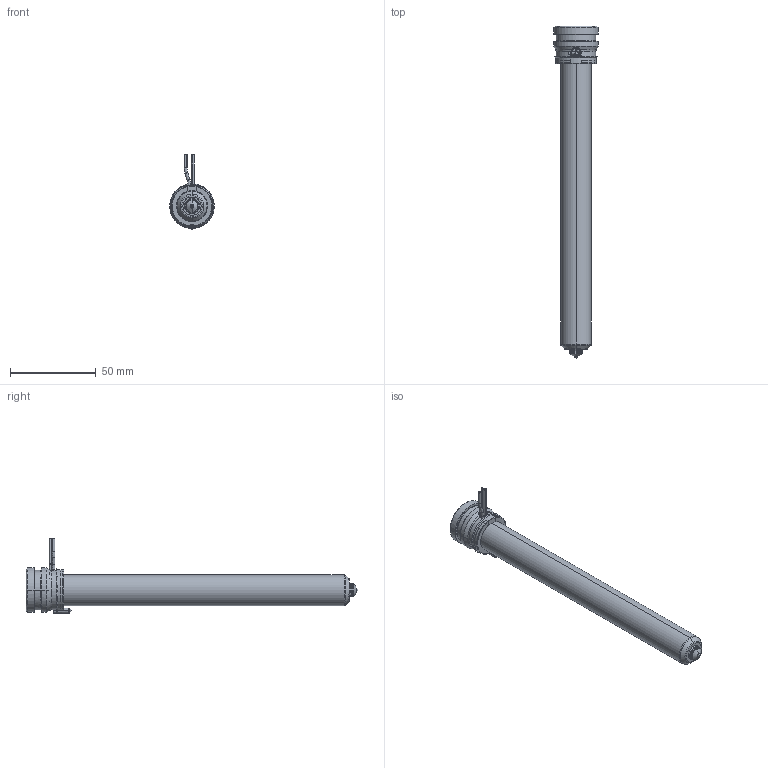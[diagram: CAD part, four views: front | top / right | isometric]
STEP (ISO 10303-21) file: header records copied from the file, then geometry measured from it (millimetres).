
FILE_DESCRIPTION((''),'2;1');
FILE_NAME('MPN-08-24-TS8-176-A','2026-02-05T11:53:37',('UPTIO'),('Thermoplay S.p.A.'),'CREO PARAMETRIC BY PTC INC, 2023494','CREO PARAMETRIC BY PTC INC, 2023494','');
FILE_SCHEMA(('CONFIG_CONTROL_DESIGN','SHAPE_APPEARANCE_LAYERS_GROUPS'));
Length unit declared in the file: millimetre
Products named in the file (1): MPN-08-24-TS8-176-A
Bounding box: 26 x 194 x 43.5 mm (x, y, z)
Volume: 36321.7 mm3; surface area: 47510.2 mm2
Topology: 2 solids, 5 shells, 548 faces, 1437 edges, 892 vertices
Faces by surface type: cylinder 178, plane 146, bspline 82, torus 64, cone 60, sphere 12, extrusion 6
Entity records: 29742 total; most frequent: CARTESIAN_POINT 13569, ORIENTED_EDGE 2854, DIRECTION 2539, EDGE_CURVE 1427, AXIS2_PLACEMENT_3D 992, VERTEX_POINT 892, EDGE_LOOP 575, VECTOR 555
